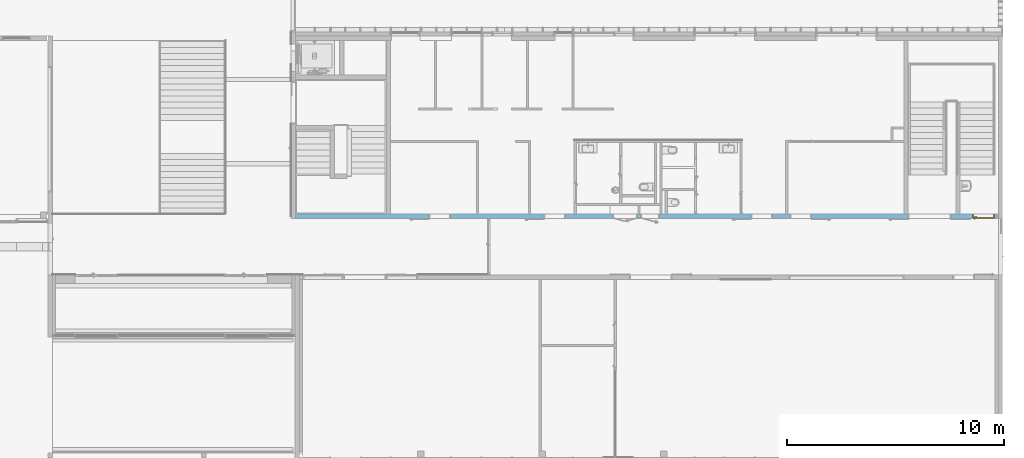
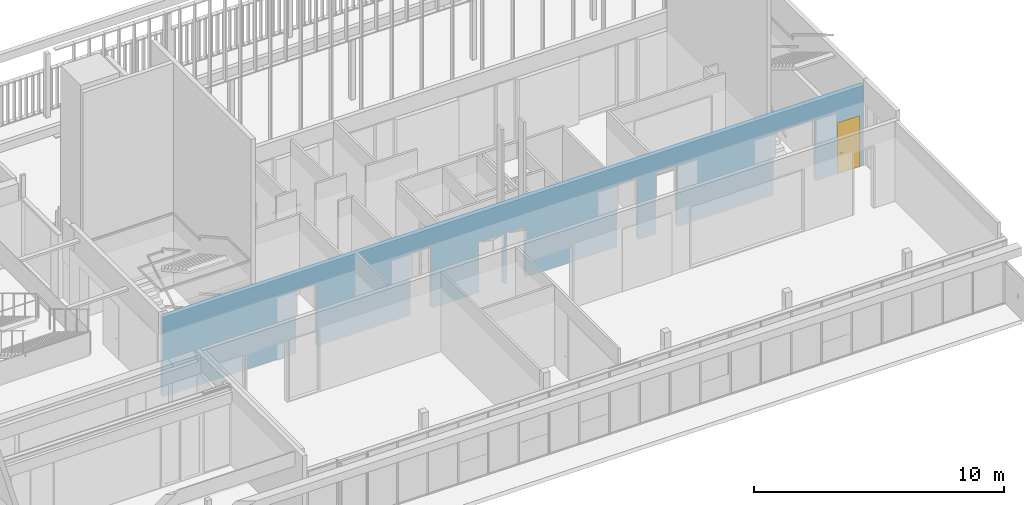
# One storey, part 168 of 240: 1 door, 8 openings, plus 1 element that does not belong to this part.
"""IFC2X3 building model written with IfcOpenShell, lengths in centimetres."""

from ifc_helpers import new_model, entity, si_unit, converted_unit, derived_unit, direction, frame, frame_2d, origin, place, context, subcontext, project, spatial, polyline, rectangle, extrude, clip, bounded_halfspace, faceted_brep, source, transform, mapped, material, material_list, layer, layer_set, layer_usage, type_object, type_shapes, element, fill, save


model = new_model("IFC2X3")

# Units and contexts
model_context = context("Model", 3, precision=0.001, world=origin(), true_north=direction((6.12303176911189e-17, 1.0)))
body_context = subcontext(model_context, "Body", "Model", "MODEL_VIEW")
ifc_project = project(units=[si_unit("LENGTHUNIT", "METRE", prefix="CENTI"), si_unit("AREAUNIT", "SQUARE_METRE"), si_unit("VOLUMEUNIT", "CUBIC_METRE"), converted_unit("PLANEANGLEUNIT", "DEGREE", entity("IfcRatioMeasure", 0.0174532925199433), si_unit("PLANEANGLEUNIT", "RADIAN"), dimensions=[0, 0, 0, 0, 0, 0, 0]), si_unit("MASSUNIT", "GRAM", prefix="KILO"), derived_unit("MASSDENSITYUNIT", [(si_unit("MASSUNIT", "GRAM", prefix="KILO"), 1), (si_unit("LENGTHUNIT", "METRE"), -3)]), si_unit("TIMEUNIT", "SECOND"), si_unit("FREQUENCYUNIT", "HERTZ"), si_unit("THERMODYNAMICTEMPERATUREUNIT", "DEGREE_CELSIUS"), derived_unit("THERMALTRANSMITTANCEUNIT", [(si_unit("MASSUNIT", "GRAM", prefix="KILO"), 1), (si_unit("THERMODYNAMICTEMPERATUREUNIT", "KELVIN"), -1), (si_unit("TIMEUNIT", "SECOND"), -3)]), derived_unit("VOLUMETRICFLOWRATEUNIT", [(si_unit("LENGTHUNIT", "METRE"), 3), (si_unit("TIMEUNIT", "SECOND"), -1)]), si_unit("ELECTRICCURRENTUNIT", "AMPERE"), si_unit("ELECTRICVOLTAGEUNIT", "VOLT"), si_unit("POWERUNIT", "WATT"), si_unit("FORCEUNIT", "NEWTON", prefix="KILO"), si_unit("ILLUMINANCEUNIT", "LUX"), si_unit("LUMINOUSFLUXUNIT", "LUMEN"), si_unit("LUMINOUSINTENSITYUNIT", "CANDELA"), derived_unit("USERDEFINED", [(si_unit("MASSUNIT", "GRAM", prefix="KILO"), -1), (si_unit("LENGTHUNIT", "METRE"), -2), (si_unit("TIMEUNIT", "SECOND"), 3), (si_unit("LUMINOUSFLUXUNIT", "LUMEN"), 1)]), derived_unit("LINEARVELOCITYUNIT", [(si_unit("LENGTHUNIT", "METRE"), 1), (si_unit("TIMEUNIT", "SECOND"), -1)]), si_unit("PRESSUREUNIT", "PASCAL"), derived_unit("USERDEFINED", [(si_unit("LENGTHUNIT", "METRE"), -2), (si_unit("MASSUNIT", "GRAM", prefix="KILO"), 1), (si_unit("TIMEUNIT", "SECOND"), -2)])], contexts=[model_context])

# Site, building, storey
site_placement = place(None, frame((-2781.94577612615, 7442.24238424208, 0.0)))
site = spatial("IfcSite", under=ifc_project, at=site_placement, Name="Default", CompositionType="ELEMENT")
building_placement = place(site_placement, origin())
building = spatial("IfcBuilding", under=site, at=building_placement, CompositionType="ELEMENT")
storey_placement = place(building_placement, origin())
storey = spatial("IfcBuildingStorey", under=building, at=storey_placement, Name="N00 - COO", CompositionType="ELEMENT", Elevation=0.0)

# Wall, openings, door
ifc_material_1 = material(Name="01 - Maçonnerie")
ifc_layer = layer(ifc_material_1, 20.0)
ifc_layer_set = layer_set([ifc_layer], Name="Mur de base:04 - Structure - béton - 20cm")
ifc_layer_usage = layer_usage(ifc_layer_set, "AXIS2", "NEGATIVE", 10.0)
wall_type = type_object("IfcWallType", Name="Mur de base:04 - Structure - béton - 20cm", PredefinedType="STANDARD", material=ifc_layer_set)
wall_placement = place(building_placement, frame((-3647.99987968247, -1920.07903364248, 0.0)))
wall = element("IfcWallStandardCase", 1, at=wall_placement, inside=storey, type_object=wall_type, material=ifc_layer_usage, Name="Mur de base:04 - Structure - béton - 20cm", ObjectType="Mur de base:04 - Structure - béton - 20cm", context=body_context, shape_type="Clipping", body=[
    clip(extrude(rectangle(XDim=3237.99999684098, YDim=19.9999999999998, at=frame_2d((1618.99999842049, -2.66453525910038e-15), x_axis=(-1.0, 0.0))), origin(), (0.0, 0.0, 1.0), 391.0), bounded_halfspace(frame((0.0, -10.0, 391.0), z_axis=(0.0, 0.0, -1.0), x_axis=(0.0, 1.0, 0.0)), True, frame((0.0, -10.0, 391.0)), polyline([(0.0, 0.0), (3238.0, 0.0), (3238.0, 20.0), (3062.69999684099, 20.0), (3042.69999684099, 20.0), (2268.49999684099, 20.0), (2258.49999684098, 20.0), (2058.49999684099, 20.0), (2048.49999684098, 20.0), (1848.49999684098, 20.0), (1838.49999684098, 20.0), (1713.49999684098, 20.0), (1703.49999684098, 20.0), (1293.99999684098, 20.0), (1283.99999684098, 20.0), (1083.99999684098, 20.0), (1073.99999684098, 20.0), (843.999996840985, 20.0), (833.999996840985, 20.0), (438.699996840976, 20.0), (0.0, 20.0), (0.0, 0.0)]))),
])
opening_1_placement = place(wall_placement, frame((3019.69999684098, 10.0, 0.0)))
element("IfcOpeningElement", 2, at=opening_1_placement, cuts=wall, Name="Int. Double:PP (1.90m x 3.00m):1", ObjectType="Opening", context=body_context, shape_type="SweptSolid", body=[
    extrude(rectangle(XDim=304.500000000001, YDim=197.0, at=frame_2d((152.250000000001, 98.5), x_axis=(1.0, 0.0))), frame((0.0, 0.0, 0.0), z_axis=(0.0, -1.0, 0.0), x_axis=(0.0, 0.0, 1.0)), (0.0, 0.0, 1.0), 20.0),
])
opening_2_placement = place(wall_placement, frame((1243.99999684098, 10.0, 0.0)))
element("IfcOpeningElement", 3, at=opening_2_placement, cuts=wall, Name="Int. Simple:PV (0.93m x 3.00m):1", ObjectType="Opening", context=body_context, shape_type="SweptSolid", body=[
    extrude(rectangle(XDim=304.500000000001, YDim=99.9999999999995, at=frame_2d((152.250000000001, 49.9999999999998), x_axis=(1.0, 0.0))), frame((0.0, 0.0, 0.0), z_axis=(0.0, -1.0, 0.0), x_axis=(0.0, 0.0, 1.0)), (0.0, 0.0, 1.0), 20.0),
])
opening_3_placement = place(wall_placement, frame((2198.49999684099, 10.0, 0.0)))
element("IfcOpeningElement", 4, at=opening_3_placement, cuts=wall, Name="Int. Simple:PV (0.93m x 3.00m):1", ObjectType="Opening", context=body_context, shape_type="SweptSolid", body=[
    extrude(rectangle(XDim=304.500000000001, YDim=99.9999999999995, at=frame_2d((152.250000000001, 49.9999999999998), x_axis=(1.0, 0.0))), frame((0.0, 0.0, 0.0), z_axis=(0.0, -1.0, 0.0), x_axis=(0.0, 0.0, 1.0)), (0.0, 0.0, 1.0), 20.0),
])
opening_4_placement = place(wall_placement, frame((713.999996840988, 10.0, 0.0)))
element("IfcOpeningElement", 5, at=opening_4_placement, cuts=wall, Name="Int. Simple:PP (0.93m x 3.06m):1", ObjectType="Opening", context=body_context, shape_type="SweptSolid", body=[
    extrude(rectangle(XDim=309.500000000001, YDim=99.9999999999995, at=frame_2d((154.750000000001, 49.9999999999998), x_axis=(1.0, 0.0))), frame((0.0, 0.0, 0.0), z_axis=(0.0, -1.0, 0.0), x_axis=(0.0, 0.0, 1.0)), (0.0, 0.0, 1.0), 20.0),
])
opening_5_placement = place(wall_placement, frame((1576.99999684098, 10.0, 0.0)))
element("IfcOpeningElement", 6, at=opening_5_placement, cuts=wall, Name="Int. Double:PP Placard (1.10m x 2.50m):1", ObjectType="Opening", context=body_context, shape_type="SweptSolid", body=[
    extrude(rectangle(XDim=248.500000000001, YDim=117.0, at=frame_2d((124.250000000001, 58.5000000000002), x_axis=(1.0, 0.0))), frame((0.0, 0.0, 0.0), z_axis=(0.0, -1.0, 0.0), x_axis=(0.0, 0.0, 1.0)), (0.0, 0.0, 1.0), 20.0),
])
opening_6_placement = place(wall_placement, frame((1677.0, 10.0, 0.0)))
element("IfcOpeningElement", 7, at=opening_6_placement, cuts=wall, Name="Int. Simple:PP Placard (0.80m x 2.50m):1", ObjectType="Opening", context=body_context, shape_type="SweptSolid", body=[
    extrude(rectangle(XDim=248.500000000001, YDim=86.9999999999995, at=frame_2d((124.250000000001, 43.4999999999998), x_axis=(1.0, 0.0))), frame((0.0, 0.0, 0.0), z_axis=(0.0, -1.0, 0.0), x_axis=(0.0, 0.0, 1.0)), (0.0, 0.0, 1.0), 20.0),
])
opening_7_placement = place(wall_placement, frame((2378.49999684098, 10.0, 0.0)))
element("IfcOpeningElement", 8, at=opening_7_placement, cuts=wall, Name="Int. Simple:PV (0.93m x 3.00m):1", ObjectType="Opening", context=body_context, shape_type="SweptSolid", body=[
    extrude(rectangle(XDim=304.500000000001, YDim=99.9999999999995, at=frame_2d((152.250000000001, 49.9999999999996), x_axis=(1.0, 0.0))), frame((0.0, 0.0, 0.0), z_axis=(0.0, -1.0, 0.0), x_axis=(0.0, 0.0, 1.0)), (0.0, 0.0, 1.0), 20.0),
])
opening_8_placement = place(wall_placement, frame((3220.0, 10.0, 0.0)))
opening_8 = element("IfcOpeningElement", 9, at=opening_8_placement, cuts=wall, Name="Int. Simple:PP simple (0.93m x 2.50m):1", ObjectType="Opening", context=body_context, shape_type="SweptSolid", body=[
    extrude(rectangle(XDim=248.500000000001, YDim=99.9999999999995, at=frame_2d((124.250000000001, 49.9999999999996), x_axis=(1.0, 0.0))), frame((0.0, 0.0, 0.0), z_axis=(0.0, -1.0, 0.0), x_axis=(0.0, 0.0, 1.0)), (0.0, 0.0, 1.0), 20.0),
])
ifc_material_2 = material(Name="Finition Peinture - Blanc satiné")
ifc_material_3 = material(Name="Bois - Panneau de porte")
ifc_material_4 = material(Name="Bois - Cadre de porte")
ifc_material_list_1 = material_list([ifc_material_2, ifc_material_3, ifc_material_4])
ifc_material_list_2 = material_list([ifc_material_2, ifc_material_3, ifc_material_4])
door_style = type_object("IfcDoorStyle", Name="PP simple (0.93m x 2.50m)", ConstructionType="NOTDEFINED", OperationType="SINGLE_SWING_LEFT", ParameterTakesPrecedence=False, Sizeable=False, material=ifc_material_list_2)
shared_shape = source(origin(), body_context, "Body", "Brep", [
    faceted_brep([(10.5352761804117, -0.500000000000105, 86.6003983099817), (11.5000000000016, -0.500000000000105, 87.0), (11.5000000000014, -0.500000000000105, 108.0), (10.5352761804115, -0.500000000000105, 108.399601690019), (9.50000000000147, -0.500000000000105, 108.535898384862), (8.46472381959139, -0.500000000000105, 108.399601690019), (7.50000000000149, -0.500000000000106, 108.0), (7.50000000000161, -0.500000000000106, 87.0), (8.46472381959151, -0.500000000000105, 86.6003983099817), (9.50000000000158, -0.500000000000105, 86.464101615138), (10.5352761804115, 0.0, 108.399601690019), (11.5000000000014, 0.0, 108.0), (11.5000000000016, 0.0, 87.0), (10.5352761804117, 0.0, 86.6003983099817), (9.50000000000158, 0.0, 86.464101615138), (8.46472381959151, 0.0, 86.6003983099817), (7.50000000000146, 0.0, 87.0), (7.50000000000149, 0.0, 108.0), (8.46472381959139, 0.0, 108.399601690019), (9.50000000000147, 0.0, 108.535898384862)], [[[0, 1, 2, 3, 4, 5, 6, 7, 8, 9]], [[10, 11, 12, 13, 14, 15, 16, 17, 18, 19]], [[16, 15, 8, 7]], [[8, 15, 14, 9]], [[14, 13, 0, 9]], [[13, 12, 1, 0]], [[2, 1, 12, 11]], [[11, 10, 3, 2]], [[3, 10, 19, 4]], [[19, 18, 5, 4]], [[18, 17, 6, 5]], [[7, 6, 17, 16]]]),
    faceted_brep([(10.5352761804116, 4.0, 86.6003983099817), (11.5000000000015, 4.0, 87.0), (11.5000000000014, 4.0, 108.0), (10.5352761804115, 4.0, 108.399601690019), (9.50000000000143, 4.0, 108.535898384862), (8.46472381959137, 4.0, 108.399601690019), (7.50000000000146, 4.0, 108.0), (7.50000000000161, 4.0, 87.0), (8.46472381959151, 4.0, 86.6003983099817), (9.50000000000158, 4.0, 86.464101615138), (10.5352761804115, 4.49999999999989, 108.399601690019), (11.5000000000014, 4.49999999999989, 108.0), (11.5000000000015, 4.49999999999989, 87.0), (10.5352761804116, 4.49999999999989, 86.6003983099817), (9.50000000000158, 4.49999999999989, 86.464101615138), (8.46472381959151, 4.49999999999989, 86.6003983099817), (7.50000000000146, 4.49999999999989, 87.0), (7.50000000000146, 4.49999999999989, 108.0), (8.46472381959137, 4.49999999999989, 108.399601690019), (9.50000000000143, 4.49999999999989, 108.535898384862)], [[[0, 1, 2, 3, 4, 5, 6, 7, 8, 9]], [[10, 11, 12, 13, 14, 15, 16, 17, 18, 19]], [[11, 10, 3, 2]], [[3, 10, 19, 4]], [[19, 18, 5, 4]], [[18, 17, 6, 5]], [[7, 6, 17, 16]], [[16, 15, 8, 7]], [[8, 15, 14, 9]], [[14, 13, 0, 9]], [[13, 12, 1, 0]], [[2, 1, 12, 11]]]),
    faceted_brep([(9.29747013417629, -0.500000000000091, 100.778044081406), (9.70252986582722, -0.500000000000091, 100.778044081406), (10.1000000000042, -0.500000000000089, 100.699999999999), (10.1000000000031, -0.500000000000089, 99.3000000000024), (9.7025298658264, -0.500000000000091, 99.2219559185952), (9.29747013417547, -0.500000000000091, 99.221955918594), (8.8999999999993, -0.500000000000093, 99.2999999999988), (8.89999999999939, -0.500000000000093, 100.7), (8.89999999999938, -3.26509507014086, 100.7), (9.29747013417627, -3.10045754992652, 100.778044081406), (10.9023585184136, -4.70534593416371, 100.778044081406), (11.0701397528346, -4.30028620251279, 100.778044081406), (9.7025298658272, -2.93267631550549, 100.778044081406), (10.1000000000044, -2.76803879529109, 100.7), (10.1000000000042, -2.76803879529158, 99.3000000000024), (9.7025298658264, -2.93267631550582, 99.2219559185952), (11.0701397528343, -4.30028620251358, 99.2219559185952), (10.9023585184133, -4.70534593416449, 99.221955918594), (9.29747013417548, -3.10045754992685, 99.221955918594), (8.89999999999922, -3.26509507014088, 99.2999999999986), (10.7377209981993, -5.10281606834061, 100.7), (11.2347772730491, -3.90281606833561, 100.7), (11.2347772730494, -3.90281606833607, 99.3000000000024), (10.7377209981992, -5.10281606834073, 99.2999999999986), (19.5018640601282, -5.1028160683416, 99.2999999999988), (19.5018640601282, -4.70534593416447, 99.221955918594), (19.5018640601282, -4.30028620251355, 99.2219559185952), (19.5018640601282, -3.90281606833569, 99.3000000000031), (19.5018640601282, -3.90281606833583, 100.7), (19.5018640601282, -4.30028620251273, 100.778044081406), (19.5018640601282, -4.70534593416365, 100.778044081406), (19.5018640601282, -5.10281606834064, 100.699999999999), (14.7307697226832, -5.10281606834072, 100.7), (15.2860019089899, -4.5028160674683, 100.78786867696), (15.3683206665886, -3.9028160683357, 100.7), (15.3683206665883, -3.90281606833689, 99.3000000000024), (15.2860018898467, -4.50281607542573, 99.2121313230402), (14.7307700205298, -5.10281606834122, 99.2999999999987)], [[[0, 1, 2, 3, 4, 5, 6, 7]], [[8, 9, 0, 7]], [[9, 10, 11, 12, 1, 0]], [[12, 13, 2, 1]], [[3, 2, 13, 14]], [[14, 15, 4, 3]], [[15, 16, 17, 18, 5, 4]], [[18, 19, 6, 5]], [[7, 6, 19, 8]], [[20, 10, 9, 8]], [[11, 21, 13, 12]], [[14, 13, 21, 22]], [[22, 16, 15, 14]], [[17, 23, 19, 18]], [[8, 19, 23, 20]], [[24, 25, 26, 27, 28, 29, 30, 31]], [[32, 30, 33]], [[31, 30, 32]], [[10, 20, 32]], [[33, 34, 11]], [[21, 11, 34]], [[34, 29, 28]], [[30, 29, 33]], [[29, 34, 33]], [[10, 32, 33]], [[10, 33, 11]], [[22, 21, 34, 28, 27, 35]], [[35, 26, 36]], [[37, 36, 25]], [[22, 35, 16]], [[35, 27, 26]], [[24, 37, 25]], [[23, 17, 37]], [[37, 17, 36]], [[17, 16, 36]], [[16, 35, 36]], [[25, 36, 26]], [[20, 23, 37, 24, 31, 32]]]),
    faceted_brep([(9.29747013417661, 4.49999999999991, 100.778044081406), (8.89999999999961, 4.4999999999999, 100.7), (8.89999999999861, 4.4999999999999, 99.2999999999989), (9.29747013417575, 4.49999999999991, 99.221955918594), (9.70252986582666, 4.49999999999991, 99.2219559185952), (10.1000000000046, 4.49999999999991, 99.3000000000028), (10.1000000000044, 4.49999999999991, 100.7), (9.70252986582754, 4.49999999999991, 100.778044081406), (10.1000000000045, 6.7485204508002, 99.3000000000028), (10.1000000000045, 6.74852045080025, 100.7), (9.70252986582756, 6.91315797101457, 100.778044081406), (11.083890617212, 8.29451872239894, 100.778044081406), (10.916109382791, 8.69957845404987, 100.778044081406), (9.29747013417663, 7.0809392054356, 100.778044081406), (8.89999999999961, 7.24557672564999, 100.7), (8.89999999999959, 7.2455767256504, 99.2999999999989), (9.29747013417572, 7.08093920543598, 99.221955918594), (10.9161093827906, 8.69957845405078, 99.221955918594), (11.0838906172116, 8.29451872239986, 99.2219559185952), (9.70252986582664, 6.91315797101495, 99.2219559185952), (11.2485281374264, 7.89704858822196, 99.3000000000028), (11.2485281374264, 7.89704858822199, 100.7), (10.7514718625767, 9.09704858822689, 100.7), (10.7514718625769, 9.0970485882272, 99.2999999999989), (19.5045783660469, 7.89704858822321, 99.3000000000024), (19.5045783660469, 8.29451872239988, 99.2219559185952), (19.5045783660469, 8.6995784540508, 99.221955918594), (19.5045783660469, 9.09704858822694, 99.2999999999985), (19.5045783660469, 9.09704858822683, 100.7), (19.5045783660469, 8.69957845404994, 100.778044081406), (19.5045783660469, 8.29451872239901, 100.778044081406), (19.5045783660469, 7.89704858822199, 100.7), (15.3765520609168, 7.89704858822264, 99.3000000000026), (15.3765532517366, 7.89704858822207, 100.7), (15.294234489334, 8.49704858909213, 100.78786867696), (14.7445205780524, 9.09704858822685, 100.7), (14.7445204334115, 9.09704858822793, 99.2999999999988), (15.2942345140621, 8.49704858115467, 99.2121313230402)], [[[0, 1, 2, 3, 4, 5, 6, 7]], [[6, 5, 8, 9]], [[9, 10, 7, 6]], [[10, 11, 12, 13, 0, 7]], [[13, 14, 1, 0]], [[2, 1, 14, 15]], [[15, 16, 3, 2]], [[16, 17, 18, 19, 4, 3]], [[19, 8, 5, 4]], [[9, 8, 20, 21]], [[21, 11, 10, 9]], [[12, 22, 14, 13]], [[15, 14, 22, 23]], [[23, 17, 16, 15]], [[18, 20, 8, 19]], [[24, 25, 26, 27, 28, 29, 30, 31]], [[21, 20, 32, 24, 31, 33]], [[33, 30, 34]], [[35, 34, 29]], [[21, 33, 11]], [[33, 31, 30]], [[28, 35, 29]], [[22, 12, 35]], [[35, 12, 34]], [[12, 11, 34]], [[11, 33, 34]], [[29, 34, 30]], [[22, 35, 28, 27, 36, 23]], [[36, 26, 37]], [[27, 26, 36]], [[17, 23, 36]], [[37, 32, 18]], [[20, 18, 32]], [[32, 25, 24]], [[26, 25, 37]], [[25, 32, 37]], [[17, 36, 37]], [[17, 37, 18]]]),
    faceted_brep([(3.50000000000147, 4.0, 245.0), (96.5000000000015, 4.0, 245.0), (96.5000000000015, 4.0, 0.0), (3.50000000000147, 4.0, 0.0), (3.50000000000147, 0.0, 245.0), (3.50000000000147, 0.0, 0.0), (96.5000000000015, 0.0, 0.0), (96.5000000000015, 0.0, 245.0)], [[[0, 1, 2, 3]], [[4, 5, 6, 7]], [[1, 0, 4, 7]], [[2, 1, 7, 6]], [[3, 2, 6, 5]], [[0, 3, 5, 4]]]),
    faceted_brep([(0.0, 20.0, 0.0), (-1.50000000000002, 20.0, 0.0), (-1.50000000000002, 20.5000000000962, 0.0), (5.0, 20.5000000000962, 0.0), (5.0, 4.0, 0.0), (3.50000000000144, 4.0, 0.0), (3.50000000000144, -0.500000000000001, 0.0), (-1.50000000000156, -0.500000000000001, 0.0), (-1.50000000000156, 0.0, 0.0), (0.0, 0.0, 0.0), (0.0, 0.0, 248.500000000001), (0.0, 20.0, 248.500000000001), (100.0, 20.0, 248.500000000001), (100.0, 20.0, 0.0), (101.5, 20.0, 0.0), (101.5, 20.0, 250.0), (-1.50000000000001, 20.0, 250.0), (5.0, 20.5000000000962, 243.5), (5.0, 4.0, 243.5), (95.0, 4.0, 243.5), (95.0, 4.0, 0.0), (96.499999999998, 4.0, 0.0), (96.499999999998, 4.0, 245.0), (3.50000000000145, 4.0, 245.0), (100.0, 0.0, 248.500000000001), (100.0, 0.0, 0.0), (101.500000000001, 0.0, 0.0), (101.500000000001, -0.500000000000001, 0.0), (96.499999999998, -0.500000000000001, 0.0), (95.0, 20.5000000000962, 0.0), (101.5, 20.5000000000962, 0.0), (95.0, 20.5000000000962, 243.5), (3.50000000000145, -0.500000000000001, 245.0), (96.499999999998, -0.500000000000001, 245.0), (101.500000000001, -0.500000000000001, 250.0), (-1.50000000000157, -0.500000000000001, 250.0), (-1.50000000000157, 0.0, 250.0), (101.500000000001, 0.0, 250.0), (-1.50000000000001, 20.5000000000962, 250.0), (101.5, 20.5000000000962, 250.0)], [[[0, 1, 2, 3, 4, 5, 6, 7, 8, 9]], [[0, 9, 10, 11]], [[1, 0, 11, 12, 13, 14, 15, 16]], [[3, 17, 18, 4]], [[5, 4, 18, 19, 20, 21, 22, 23]], [[12, 24, 25, 13]], [[13, 25, 26, 27, 28, 21, 20, 29, 30, 14]], [[19, 31, 29, 20]], [[11, 10, 24, 12]], [[18, 17, 31, 19]], [[5, 23, 32, 6]], [[7, 6, 32, 33, 28, 27, 34, 35]], [[8, 7, 35, 36]], [[9, 8, 36, 37, 26, 25, 24, 10]], [[2, 1, 16, 38]], [[3, 2, 38, 39, 30, 29, 31, 17]], [[33, 22, 21, 28]], [[37, 34, 27, 26]], [[39, 15, 14, 30]], [[32, 23, 22, 33]], [[36, 35, 34, 37]], [[38, 16, 15, 39]]]),
])
type_shapes(door_style, [shared_shape])
door_placement = place(opening_8_placement, frame((-100.000003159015, -20.0, 0.0)))
door = element("IfcDoor", 10, at=door_placement, inside=storey, type_object=door_style, material=ifc_material_list_1, Name="Int. Simple:PP simple (0.93m x 2.50m)", ObjectType="Int. Simple:PP simple (0.93m x 2.50m)", OverallHeight=248.500000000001, OverallWidth=99.9999999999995, context=body_context, shape_type="MappedRepresentation", body=[
    mapped(shared_shape, transform((0.0, 0.0, 0.0), scale=1.0)),
])
fill(opening_8, door)

save(model, "model.ifc")
